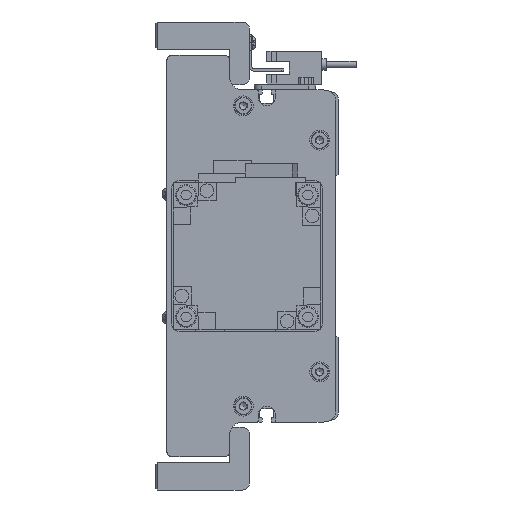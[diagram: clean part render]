
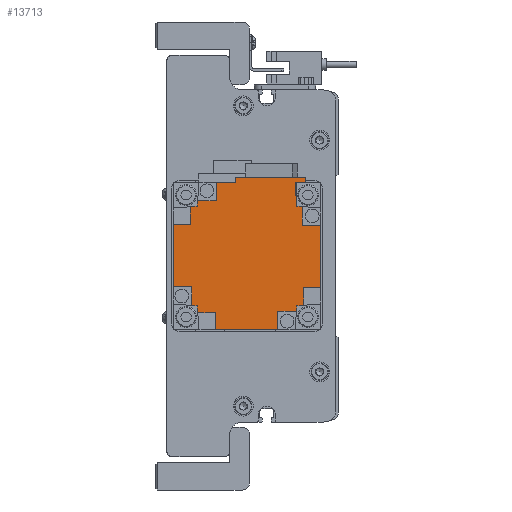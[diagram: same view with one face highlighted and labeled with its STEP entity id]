
A CAD part, left-side view. The second image highlights one B-rep face of the part: STEP entity #13713.
In plain terms, the highlighted planar face has unit normal (-1, 0, 0) as drawn and (0, 1, 0) by its records, which use the part's own axes.
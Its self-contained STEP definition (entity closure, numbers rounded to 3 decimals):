
#1354=ORIENTED_EDGE('',*,*,#5076,.T.);
#1355=ORIENTED_EDGE('',*,*,#5077,.T.);
#1356=ORIENTED_EDGE('',*,*,#5078,.T.);
#1357=ORIENTED_EDGE('',*,*,#5079,.T.);
#1358=ORIENTED_EDGE('',*,*,#5080,.T.);
#1359=ORIENTED_EDGE('',*,*,#5081,.F.);
#1360=ORIENTED_EDGE('',*,*,#5082,.F.);
#1361=ORIENTED_EDGE('',*,*,#5083,.T.);
#1362=ORIENTED_EDGE('',*,*,#5084,.T.);
#1363=ORIENTED_EDGE('',*,*,#5085,.T.);
#1364=ORIENTED_EDGE('',*,*,#5086,.T.);
#1365=ORIENTED_EDGE('',*,*,#5087,.T.);
#1366=ORIENTED_EDGE('',*,*,#5088,.F.);
#1367=ORIENTED_EDGE('',*,*,#5089,.F.);
#1368=ORIENTED_EDGE('',*,*,#5090,.T.);
#1369=ORIENTED_EDGE('',*,*,#5091,.T.);
#1370=ORIENTED_EDGE('',*,*,#5092,.T.);
#1371=ORIENTED_EDGE('',*,*,#5093,.T.);
#1372=ORIENTED_EDGE('',*,*,#5094,.T.);
#1373=ORIENTED_EDGE('',*,*,#5095,.F.);
#1374=ORIENTED_EDGE('',*,*,#5096,.F.);
#1375=ORIENTED_EDGE('',*,*,#5097,.T.);
#1376=ORIENTED_EDGE('',*,*,#5098,.F.);
#1377=ORIENTED_EDGE('',*,*,#5057,.F.);
#1378=ORIENTED_EDGE('',*,*,#5099,.T.);
#1379=ORIENTED_EDGE('',*,*,#5074,.T.);
#1380=ORIENTED_EDGE('',*,*,#5100,.T.);
#1381=ORIENTED_EDGE('',*,*,#5101,.T.);
#1382=ORIENTED_EDGE('',*,*,#5102,.F.);
#1383=ORIENTED_EDGE('',*,*,#5103,.F.);
#5057=EDGE_CURVE('',#6950,#6951,#8332,.T.);
#5074=EDGE_CURVE('',#6968,#6967,#8349,.T.);
#5076=EDGE_CURVE('',#6969,#6970,#8351,.T.);
#5077=EDGE_CURVE('',#6970,#6971,#8352,.T.);
#5078=EDGE_CURVE('',#6971,#6972,#8353,.T.);
#5079=EDGE_CURVE('',#6972,#6973,#8354,.T.);
#5080=EDGE_CURVE('',#6973,#6974,#8355,.T.);
#5081=EDGE_CURVE('',#6975,#6974,#8356,.T.);
#5082=EDGE_CURVE('',#6976,#6975,#8357,.T.);
#5083=EDGE_CURVE('',#6976,#6977,#8358,.T.);
#5084=EDGE_CURVE('',#6977,#6978,#8359,.T.);
#5085=EDGE_CURVE('',#6978,#6979,#8360,.T.);
#5086=EDGE_CURVE('',#6979,#6980,#8361,.T.);
#5087=EDGE_CURVE('',#6980,#6981,#8362,.T.);
#5088=EDGE_CURVE('',#6982,#6981,#8363,.T.);
#5089=EDGE_CURVE('',#6983,#6982,#8364,.T.);
#5090=EDGE_CURVE('',#6983,#6984,#8365,.T.);
#5091=EDGE_CURVE('',#6984,#6985,#8366,.T.);
#5092=EDGE_CURVE('',#6985,#6986,#8367,.T.);
#5093=EDGE_CURVE('',#6986,#6987,#8368,.T.);
#5094=EDGE_CURVE('',#6987,#6988,#8369,.T.);
#5095=EDGE_CURVE('',#6989,#6988,#8370,.T.);
#5096=EDGE_CURVE('',#6990,#6989,#8371,.T.);
#5097=EDGE_CURVE('',#6990,#6991,#8372,.T.);
#5098=EDGE_CURVE('',#6951,#6991,#8373,.T.);
#5099=EDGE_CURVE('',#6950,#6968,#8374,.T.);
#5100=EDGE_CURVE('',#6967,#6992,#8375,.T.);
#5101=EDGE_CURVE('',#6992,#6993,#8376,.T.);
#5102=EDGE_CURVE('',#6994,#6993,#8377,.T.);
#5103=EDGE_CURVE('',#6969,#6994,#8378,.T.);
#6950=VERTEX_POINT('',#20451);
#6951=VERTEX_POINT('',#20452);
#6967=VERTEX_POINT('',#20485);
#6968=VERTEX_POINT('',#20487);
#6969=VERTEX_POINT('',#20491);
#6970=VERTEX_POINT('',#20492);
#6971=VERTEX_POINT('',#20494);
#6972=VERTEX_POINT('',#20496);
#6973=VERTEX_POINT('',#20498);
#6974=VERTEX_POINT('',#20500);
#6975=VERTEX_POINT('',#20502);
#6976=VERTEX_POINT('',#20504);
#6977=VERTEX_POINT('',#20506);
#6978=VERTEX_POINT('',#20508);
#6979=VERTEX_POINT('',#20510);
#6980=VERTEX_POINT('',#20512);
#6981=VERTEX_POINT('',#20514);
#6982=VERTEX_POINT('',#20516);
#6983=VERTEX_POINT('',#20518);
#6984=VERTEX_POINT('',#20520);
#6985=VERTEX_POINT('',#20522);
#6986=VERTEX_POINT('',#20524);
#6987=VERTEX_POINT('',#20526);
#6988=VERTEX_POINT('',#20528);
#6989=VERTEX_POINT('',#20530);
#6990=VERTEX_POINT('',#20532);
#6991=VERTEX_POINT('',#20534);
#6992=VERTEX_POINT('',#20538);
#6993=VERTEX_POINT('',#20540);
#6994=VERTEX_POINT('',#20542);
#8332=LINE('',#20450,#9699);
#8349=LINE('',#20486,#9716);
#8351=LINE('',#20490,#9718);
#8352=LINE('',#20493,#9719);
#8353=LINE('',#20495,#9720);
#8354=LINE('',#20497,#9721);
#8355=LINE('',#20499,#9722);
#8356=LINE('',#20501,#9723);
#8357=LINE('',#20503,#9724);
#8358=LINE('',#20505,#9725);
#8359=LINE('',#20507,#9726);
#8360=LINE('',#20509,#9727);
#8361=LINE('',#20511,#9728);
#8362=LINE('',#20513,#9729);
#8363=LINE('',#20515,#9730);
#8364=LINE('',#20517,#9731);
#8365=LINE('',#20519,#9732);
#8366=LINE('',#20521,#9733);
#8367=LINE('',#20523,#9734);
#8368=LINE('',#20525,#9735);
#8369=LINE('',#20527,#9736);
#8370=LINE('',#20529,#9737);
#8371=LINE('',#20531,#9738);
#8372=LINE('',#20533,#9739);
#8373=LINE('',#20535,#9740);
#8374=LINE('',#20536,#9741);
#8375=LINE('',#20537,#9742);
#8376=LINE('',#20539,#9743);
#8377=LINE('',#20541,#9744);
#8378=LINE('',#20543,#9745);
#9699=VECTOR('',#16292,1000.);
#9716=VECTOR('',#16311,1000.);
#9718=VECTOR('',#16315,1000.);
#9719=VECTOR('',#16316,1000.);
#9720=VECTOR('',#16317,1000.);
#9721=VECTOR('',#16318,1000.);
#9722=VECTOR('',#16319,1000.);
#9723=VECTOR('',#16320,1000.);
#9724=VECTOR('',#16321,1000.);
#9725=VECTOR('',#16322,1000.);
#9726=VECTOR('',#16323,1000.);
#9727=VECTOR('',#16324,1000.);
#9728=VECTOR('',#16325,1000.);
#9729=VECTOR('',#16326,1000.);
#9730=VECTOR('',#16327,1000.);
#9731=VECTOR('',#16328,1000.);
#9732=VECTOR('',#16329,1000.);
#9733=VECTOR('',#16330,1000.);
#9734=VECTOR('',#16331,1000.);
#9735=VECTOR('',#16332,1000.);
#9736=VECTOR('',#16333,1000.);
#9737=VECTOR('',#16334,1000.);
#9738=VECTOR('',#16335,1000.);
#9739=VECTOR('',#16336,1000.);
#9740=VECTOR('',#16337,1000.);
#9741=VECTOR('',#16338,1000.);
#9742=VECTOR('',#16339,1000.);
#9743=VECTOR('',#16340,1000.);
#9744=VECTOR('',#16341,1000.);
#9745=VECTOR('',#16342,1000.);
#11010=EDGE_LOOP('',(#1354,#1355,#1356,#1357,#1358,#1359,#1360,#1361,#1362,
#1363,#1364,#1365,#1366,#1367,#1368,#1369,#1370,#1371,#1372,#1373,#1374,
#1375,#1376,#1377,#1378,#1379,#1380,#1381,#1382,#1383));
#12091=FACE_BOUND('',#11010,.T.);
#13161=PLANE('',#14647);
#13713=ADVANCED_FACE('',(#12091),#13161,.T.);
#14647=AXIS2_PLACEMENT_3D('',#20489,#16313,#16314);
#16292=DIRECTION('',(0.,0.,1.));
#16311=DIRECTION('',(0.,0.,-1.));
#16313=DIRECTION('',(0.,1.,0.));
#16314=DIRECTION('',(0.,0.,1.));
#16315=DIRECTION('',(-1.,0.,0.));
#16316=DIRECTION('',(0.,0.,-1.));
#16317=DIRECTION('',(-1.,0.,0.));
#16318=DIRECTION('',(0.,0.,1.));
#16319=DIRECTION('',(-1.,0.,0.));
#16320=DIRECTION('',(0.07,0.,-0.998));
#16321=DIRECTION('',(0.998,0.,-0.07));
#16322=DIRECTION('',(0.,0.,1.));
#16323=DIRECTION('',(-1.,0.,0.));
#16324=DIRECTION('',(0.,0.,1.));
#16325=DIRECTION('',(1.,0.,0.));
#16326=DIRECTION('',(0.,0.,1.));
#16327=DIRECTION('',(-0.998,0.,-0.07));
#16328=DIRECTION('',(-0.07,0.,-0.998));
#16329=DIRECTION('',(1.,0.,0.));
#16330=DIRECTION('',(0.,0.,1.));
#16331=DIRECTION('',(1.,0.,0.));
#16332=DIRECTION('',(0.,0.,-1.));
#16333=DIRECTION('',(1.,0.,0.));
#16334=DIRECTION('',(-0.07,0.,0.998));
#16335=DIRECTION('',(-0.998,0.,0.07));
#16336=DIRECTION('',(0.,0.,1.));
#16337=DIRECTION('',(-1.,0.,0.));
#16338=DIRECTION('',(-1.,0.,0.));
#16339=DIRECTION('',(-1.,0.,0.));
#16340=DIRECTION('',(0.,0.,-1.));
#16341=DIRECTION('',(0.998,0.,0.07));
#16342=DIRECTION('',(0.07,0.,0.998));
#20450=CARTESIAN_POINT('',(32.,130.7,-4.7));
#20451=CARTESIAN_POINT('',(32.,130.7,-4.7));
#20452=CARTESIAN_POINT('',(32.,130.7,23.7));
#20485=CARTESIAN_POINT('',(29.95,130.7,-12.5));
#20486=CARTESIAN_POINT('',(29.95,130.7,29.95));
#20487=CARTESIAN_POINT('',(29.95,130.7,-4.7));
#20489=CARTESIAN_POINT('',(0.,130.7,0.));
#20490=CARTESIAN_POINT('',(0.,130.7,-23.));
#20491=CARTESIAN_POINT('',(20.004,130.7,-23.));
#20492=CARTESIAN_POINT('',(12.8,130.7,-23.));
#20493=CARTESIAN_POINT('',(12.8,130.7,0.));
#20494=CARTESIAN_POINT('',(12.8,130.7,-29.95));
#20495=CARTESIAN_POINT('',(29.95,130.7,-29.95));
#20496=CARTESIAN_POINT('',(-12.5,130.7,-29.95));
#20497=CARTESIAN_POINT('',(-12.5,130.7,0.));
#20498=CARTESIAN_POINT('',(-12.5,130.7,-22.5));
#20499=CARTESIAN_POINT('',(0.,130.7,-22.5));
#20500=CARTESIAN_POINT('',(-20.039,130.7,-22.5));
#20501=CARTESIAN_POINT('',(-21.507,130.7,-1.504));
#20502=CARTESIAN_POINT('',(-20.2,130.7,-20.2));
#20503=CARTESIAN_POINT('',(-1.504,130.7,-21.507));
#20504=CARTESIAN_POINT('',(-23.,130.7,-20.004));
#20505=CARTESIAN_POINT('',(-23.,130.7,0.));
#20506=CARTESIAN_POINT('',(-23.,130.7,-12.8));
#20507=CARTESIAN_POINT('',(0.,130.7,-12.8));
#20508=CARTESIAN_POINT('',(-29.95,130.7,-12.8));
#20509=CARTESIAN_POINT('',(-29.95,130.7,-29.95));
#20510=CARTESIAN_POINT('',(-29.95,130.7,12.5));
#20511=CARTESIAN_POINT('',(0.,130.7,12.5));
#20512=CARTESIAN_POINT('',(-22.5,130.7,12.5));
#20513=CARTESIAN_POINT('',(-22.5,130.7,0.));
#20514=CARTESIAN_POINT('',(-22.5,130.7,20.039));
#20515=CARTESIAN_POINT('',(-1.504,130.7,21.507));
#20516=CARTESIAN_POINT('',(-20.2,130.7,20.2));
#20517=CARTESIAN_POINT('',(-21.507,130.7,1.504));
#20518=CARTESIAN_POINT('',(-20.004,130.7,23.));
#20519=CARTESIAN_POINT('',(0.,130.7,23.));
#20520=CARTESIAN_POINT('',(-12.8,130.7,23.));
#20521=CARTESIAN_POINT('',(-12.8,130.7,0.));
#20522=CARTESIAN_POINT('',(-12.8,130.7,29.95));
#20523=CARTESIAN_POINT('',(-29.95,130.7,29.95));
#20524=CARTESIAN_POINT('',(12.5,130.7,29.95));
#20525=CARTESIAN_POINT('',(12.5,130.7,0.));
#20526=CARTESIAN_POINT('',(12.5,130.7,22.5));
#20527=CARTESIAN_POINT('',(0.,130.7,22.5));
#20528=CARTESIAN_POINT('',(20.039,130.7,22.5));
#20529=CARTESIAN_POINT('',(21.507,130.7,1.504));
#20530=CARTESIAN_POINT('',(20.2,130.7,20.2));
#20531=CARTESIAN_POINT('',(1.504,130.7,21.507));
#20532=CARTESIAN_POINT('',(29.95,130.7,19.518));
#20533=CARTESIAN_POINT('',(29.95,130.7,-4.7));
#20534=CARTESIAN_POINT('',(29.95,130.7,23.7));
#20535=CARTESIAN_POINT('',(32.,130.7,23.7));
#20536=CARTESIAN_POINT('',(32.,130.7,-4.7));
#20537=CARTESIAN_POINT('',(0.,130.7,-12.5));
#20538=CARTESIAN_POINT('',(22.5,130.7,-12.5));
#20539=CARTESIAN_POINT('',(22.5,130.7,0.));
#20540=CARTESIAN_POINT('',(22.5,130.7,-20.039));
#20541=CARTESIAN_POINT('',(1.504,130.7,-21.507));
#20542=CARTESIAN_POINT('',(20.2,130.7,-20.2));
#20543=CARTESIAN_POINT('',(21.507,130.7,-1.504));
